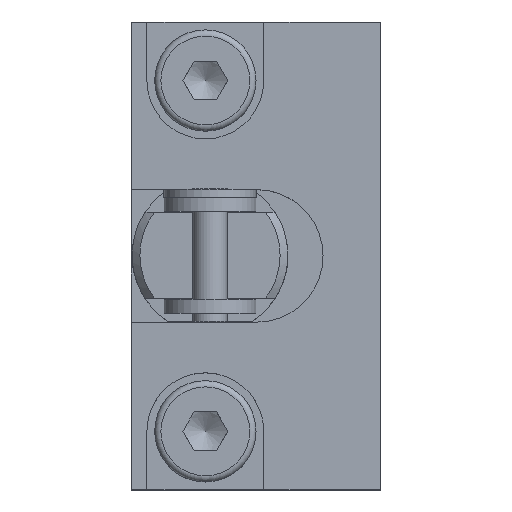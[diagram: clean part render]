
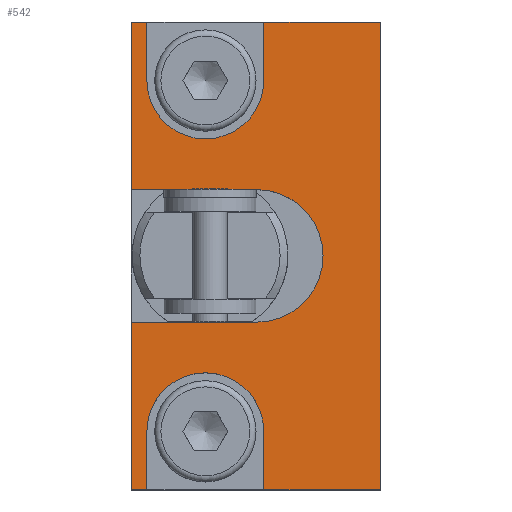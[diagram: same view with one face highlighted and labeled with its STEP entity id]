
A CAD part, top view. The second image highlights one B-rep face of the part: STEP entity #542.
In plain terms, the highlighted planar face has unit normal (0, 0, 1).
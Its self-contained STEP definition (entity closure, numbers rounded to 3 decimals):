
#224=CARTESIAN_POINT('',(314.985,-222.5,247.8));
#225=VERTEX_POINT('',#224);
#226=CARTESIAN_POINT('',(314.985,-230.,247.8));
#227=VERTEX_POINT('',#226);
#228=CARTESIAN_POINT('',(314.985,-222.5,247.8));
#229=DIRECTION('',(0.0,-1.0,0.0));
#230=VECTOR('',#229,7.5);
#231=LINE('',#228,#230);
#232=EDGE_CURVE('',#225,#227,#231,.T.);
#264=CARTESIAN_POINT('',(299.985,-230.,247.8));
#265=VERTEX_POINT('',#264);
#266=CARTESIAN_POINT('',(299.985,-222.5,247.8));
#267=VERTEX_POINT('',#266);
#268=CARTESIAN_POINT('',(299.985,-230.,247.8));
#269=DIRECTION('',(0.0,1.0,0.0));
#270=VECTOR('',#269,7.5);
#271=LINE('',#268,#270);
#272=EDGE_CURVE('',#265,#267,#271,.T.);
#304=CARTESIAN_POINT('',(314.985,-170.,247.8));
#305=VERTEX_POINT('',#304);
#306=CARTESIAN_POINT('',(314.985,-177.5,247.8));
#307=VERTEX_POINT('',#306);
#308=CARTESIAN_POINT('',(314.985,-170.,247.8));
#309=DIRECTION('',(0.0,-1.0,0.0));
#310=VECTOR('',#309,7.5);
#311=LINE('',#308,#310);
#312=EDGE_CURVE('',#305,#307,#311,.T.);
#344=CARTESIAN_POINT('',(299.985,-170.,247.8));
#345=VERTEX_POINT('',#344);
#354=CARTESIAN_POINT('',(299.985,-177.5,247.8));
#355=VERTEX_POINT('',#354);
#356=CARTESIAN_POINT('',(299.985,-177.5,247.8));
#357=DIRECTION('',(0.0,1.0,0.0));
#358=VECTOR('',#357,7.5);
#359=LINE('',#356,#358);
#360=EDGE_CURVE('',#355,#345,#359,.T.);
#413=CARTESIAN_POINT('',(297.985,-230.,247.8));
#414=VERTEX_POINT('',#413);
#415=CARTESIAN_POINT('',(299.985,-230.,247.8));
#416=DIRECTION('',(-1.0,0.0,0.0));
#417=VECTOR('',#416,2.0);
#418=LINE('',#415,#417);
#419=EDGE_CURVE('',#265,#414,#418,.T.);
#437=CARTESIAN_POINT('',(329.985,-230.,247.8));
#438=VERTEX_POINT('',#437);
#445=CARTESIAN_POINT('',(329.985,-230.,247.8));
#446=DIRECTION('',(-1.0,0.0,0.0));
#447=VECTOR('',#446,15.0);
#448=LINE('',#445,#447);
#449=EDGE_CURVE('',#438,#227,#448,.T.);
#454=CARTESIAN_POINT('',(313.985,-215.,247.8));
#455=DIRECTION('',(0.0,0.0,1.0));
#456=DIRECTION('',(1.0,0.0,0.0));
#457=AXIS2_PLACEMENT_3D('',#454,#455,#456);
#458=PLANE('',#457);
#459=ORIENTED_EDGE('',*,*,#232,.T.);
#460=ORIENTED_EDGE('',*,*,#449,.F.);
#461=CARTESIAN_POINT('',(329.985,-170.,247.8));
#462=VERTEX_POINT('',#461);
#463=CARTESIAN_POINT('',(329.985,-170.,247.8));
#464=DIRECTION('',(0.0,-1.0,0.0));
#465=VECTOR('',#464,60.);
#466=LINE('',#463,#465);
#467=EDGE_CURVE('',#462,#438,#466,.T.);
#468=ORIENTED_EDGE('',*,*,#467,.F.);
#469=CARTESIAN_POINT('',(314.985,-170.,247.8));
#470=DIRECTION('',(1.0,0.0,0.0));
#471=VECTOR('',#470,15.0);
#472=LINE('',#469,#471);
#473=EDGE_CURVE('',#305,#462,#472,.T.);
#474=ORIENTED_EDGE('',*,*,#473,.F.);
#475=ORIENTED_EDGE('',*,*,#312,.T.);
#476=CARTESIAN_POINT('',(307.485,-177.5,247.8));
#477=DIRECTION('',(0.0,0.0,1.0));
#478=DIRECTION('',(-1.0,0.,0.0));
#479=AXIS2_PLACEMENT_3D('',#476,#477,#478);
#480=CIRCLE('',#479,7.5);
#481=EDGE_CURVE('',#307,#355,#480,.F.);
#482=ORIENTED_EDGE('',*,*,#481,.T.);
#483=ORIENTED_EDGE('',*,*,#360,.T.);
#484=CARTESIAN_POINT('',(297.985,-170.,247.8));
#485=VERTEX_POINT('',#484);
#486=CARTESIAN_POINT('',(297.985,-170.,247.8));
#487=DIRECTION('',(1.0,0.0,0.0));
#488=VECTOR('',#487,2.0);
#489=LINE('',#486,#488);
#490=EDGE_CURVE('',#485,#345,#489,.T.);
#491=ORIENTED_EDGE('',*,*,#490,.F.);
#492=CARTESIAN_POINT('',(297.985,-191.5,247.8));
#493=VERTEX_POINT('',#492);
#494=CARTESIAN_POINT('',(297.985,-191.5,247.8));
#495=DIRECTION('',(0.0,1.0,0.0));
#496=VECTOR('',#495,21.5);
#497=LINE('',#494,#496);
#498=EDGE_CURVE('',#493,#485,#497,.T.);
#499=ORIENTED_EDGE('',*,*,#498,.F.);
#500=CARTESIAN_POINT('',(314.085,-191.5,247.8));
#501=VERTEX_POINT('',#500);
#502=CARTESIAN_POINT('',(314.085,-191.5,247.8));
#503=DIRECTION('',(-1.0,0.0,0.0));
#504=VECTOR('',#503,16.1);
#505=LINE('',#502,#504);
#506=EDGE_CURVE('',#493,#501,#505,.F.);
#507=ORIENTED_EDGE('',*,*,#506,.T.);
#508=CARTESIAN_POINT('',(314.085,-208.5,247.8));
#509=VERTEX_POINT('',#508);
#510=CARTESIAN_POINT('',(314.085,-200.,247.8));
#511=DIRECTION('',(0.0,0.0,1.0));
#512=DIRECTION('',(1.0,0.0,0.0));
#513=AXIS2_PLACEMENT_3D('',#510,#511,#512);
#514=CIRCLE('',#513,8.5);
#515=EDGE_CURVE('',#501,#509,#514,.F.);
#516=ORIENTED_EDGE('',*,*,#515,.T.);
#517=CARTESIAN_POINT('',(297.985,-208.5,247.8));
#518=VERTEX_POINT('',#517);
#519=CARTESIAN_POINT('',(297.985,-208.5,247.8));
#520=DIRECTION('',(1.0,0.0,0.0));
#521=VECTOR('',#520,16.1);
#522=LINE('',#519,#521);
#523=EDGE_CURVE('',#509,#518,#522,.F.);
#524=ORIENTED_EDGE('',*,*,#523,.T.);
#525=CARTESIAN_POINT('',(297.985,-230.,247.8));
#526=DIRECTION('',(0.0,1.0,0.0));
#527=VECTOR('',#526,21.5);
#528=LINE('',#525,#527);
#529=EDGE_CURVE('',#414,#518,#528,.T.);
#530=ORIENTED_EDGE('',*,*,#529,.F.);
#531=ORIENTED_EDGE('',*,*,#419,.F.);
#532=ORIENTED_EDGE('',*,*,#272,.T.);
#533=CARTESIAN_POINT('',(307.485,-222.5,247.8));
#534=DIRECTION('',(0.0,0.0,1.0));
#535=DIRECTION('',(-1.0,0.,0.0));
#536=AXIS2_PLACEMENT_3D('',#533,#534,#535);
#537=CIRCLE('',#536,7.5);
#538=EDGE_CURVE('',#267,#225,#537,.F.);
#539=ORIENTED_EDGE('',*,*,#538,.T.);
#540=EDGE_LOOP('',(#459,#460,#468,#474,#475,#482,#483,#491,#499,#507,#516,#524,#530,#531,#532,#539));
#541=FACE_OUTER_BOUND('',#540,.T.);
#542=ADVANCED_FACE('',(#541),#458,.T.);
